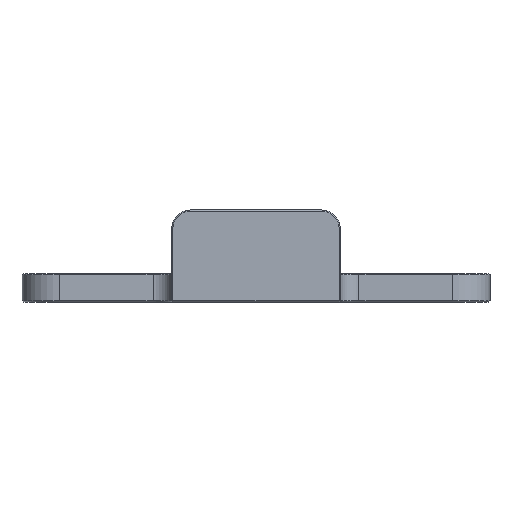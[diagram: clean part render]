
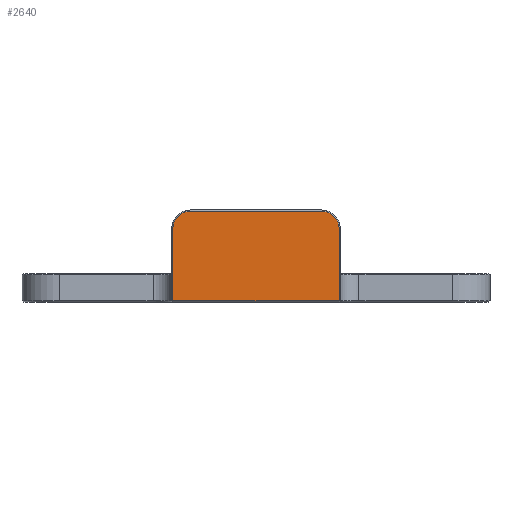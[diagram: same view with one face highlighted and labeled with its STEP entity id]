
A CAD part, front view. The second image highlights one B-rep face of the part: STEP entity #2640.
In plain terms, the highlighted planar face has unit normal (0, -1, 0).
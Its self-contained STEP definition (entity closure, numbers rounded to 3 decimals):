
#95 = DIRECTION ( 'NONE',  ( 0., -1., 0. ) ) ;
#156 = DIRECTION ( 'NONE',  ( 0., 0., -1. ) ) ;
#178 = CIRCLE ( 'NONE', #2145, 4.7 ) ;
#203 = EDGE_CURVE ( 'NONE', #1679, #2480, #1910, .T. ) ;
#237 = CIRCLE ( 'NONE', #1959, 4.7 ) ;
#573 = DIRECTION ( 'NONE',  ( 0., 0., -1. ) ) ;
#582 = LINE ( 'NONE', #1519, #2642 ) ;
#599 = DIRECTION ( 'NONE',  ( 1., 0., 0. ) ) ;
#601 = VERTEX_POINT ( 'NONE', #2995 ) ;
#626 = AXIS2_PLACEMENT_3D ( 'NONE', #2709, #1526, #573 ) ;
#663 = LINE ( 'NONE', #1598, #1883 ) ;
#707 = ORIENTED_EDGE ( 'NONE', *, *, #874, .T. ) ;
#874 = EDGE_CURVE ( 'NONE', #1757, #2806, #1231, .T. ) ;
#1000 = DIRECTION ( 'NONE',  ( 0., 0., 1. ) ) ;
#1042 = PLANE ( 'NONE',  #626 ) ;
#1149 = VECTOR ( 'NONE', #1000, 1000. ) ;
#1220 = ORIENTED_EDGE ( 'NONE', *, *, #2071, .T. ) ;
#1231 = LINE ( 'NONE', #2172, #1149 ) ;
#1286 = ORIENTED_EDGE ( 'NONE', *, *, #1969, .T. ) ;
#1292 = EDGE_CURVE ( 'NONE', #2586, #601, #663, .T. ) ;
#1310 = FACE_OUTER_BOUND ( 'NONE', #2952, .T. ) ;
#1343 = CARTESIAN_POINT ( 'NONE',  ( 17.5, -25.8, 24.3 ) ) ;
#1519 = CARTESIAN_POINT ( 'NONE',  ( 22.5, -25.8, 0.3 ) ) ;
#1526 = DIRECTION ( 'NONE',  ( 0., -1., 0. ) ) ;
#1598 = CARTESIAN_POINT ( 'NONE',  ( -22.2, -25.8, 0. ) ) ;
#1633 = CARTESIAN_POINT ( 'NONE',  ( -17.5, -25.8, 24.3 ) ) ;
#1679 = VERTEX_POINT ( 'NONE', #1343 ) ;
#1680 = ORIENTED_EDGE ( 'NONE', *, *, #1292, .T. ) ;
#1757 = VERTEX_POINT ( 'NONE', #2022 ) ;
#1769 = VECTOR ( 'NONE', #2584, 1000. ) ;
#1883 = VECTOR ( 'NONE', #156, 1000. ) ;
#1889 = CARTESIAN_POINT ( 'NONE',  ( 22.2, -25.8, 19.6 ) ) ;
#1910 = LINE ( 'NONE', #1633, #1769 ) ;
#1959 = AXIS2_PLACEMENT_3D ( 'NONE', #2426, #95, #1971 ) ;
#1969 = EDGE_CURVE ( 'NONE', #2806, #1679, #237, .T. ) ;
#1971 = DIRECTION ( 'NONE',  ( 0., 0., -1. ) ) ;
#2022 = CARTESIAN_POINT ( 'NONE',  ( 22.2, -25.8, 0.3 ) ) ;
#2071 = EDGE_CURVE ( 'NONE', #601, #1757, #582, .T. ) ;
#2145 = AXIS2_PLACEMENT_3D ( 'NONE', #2610, #2148, #2163 ) ;
#2148 = DIRECTION ( 'NONE',  ( 0., -1., 0. ) ) ;
#2163 = DIRECTION ( 'NONE',  ( 0., 0., -1. ) ) ;
#2172 = CARTESIAN_POINT ( 'NONE',  ( 22.2, -25.8, 19.6 ) ) ;
#2426 = CARTESIAN_POINT ( 'NONE',  ( 17.5, -25.8, 19.6 ) ) ;
#2432 = ORIENTED_EDGE ( 'NONE', *, *, #2768, .T. ) ;
#2480 = VERTEX_POINT ( 'NONE', #2634 ) ;
#2584 = DIRECTION ( 'NONE',  ( -1., 0., 0. ) ) ;
#2586 = VERTEX_POINT ( 'NONE', #2867 ) ;
#2610 = CARTESIAN_POINT ( 'NONE',  ( -17.5, -25.8, 19.6 ) ) ;
#2634 = CARTESIAN_POINT ( 'NONE',  ( -17.5, -25.8, 24.3 ) ) ;
#2640 = ADVANCED_FACE ( 'NONE', ( #1310 ), #1042, .T. ) ;
#2642 = VECTOR ( 'NONE', #599, 1000. ) ;
#2709 = CARTESIAN_POINT ( 'NONE',  ( 22.5, -25.8, 24.6 ) ) ;
#2768 = EDGE_CURVE ( 'NONE', #2480, #2586, #178, .T. ) ;
#2806 = VERTEX_POINT ( 'NONE', #1889 ) ;
#2867 = CARTESIAN_POINT ( 'NONE',  ( -22.2, -25.8, 19.6 ) ) ;
#2952 = EDGE_LOOP ( 'NONE', ( #2968, #2432, #1680, #1220, #707, #1286 ) ) ;
#2968 = ORIENTED_EDGE ( 'NONE', *, *, #203, .T. ) ;
#2995 = CARTESIAN_POINT ( 'NONE',  ( -22.2, -25.8, 0.3 ) ) ;
